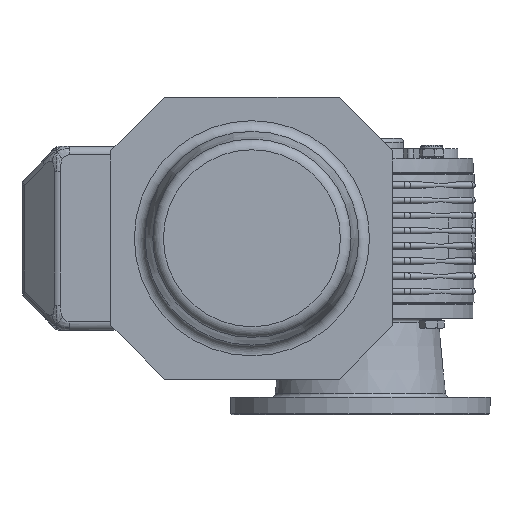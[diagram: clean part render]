
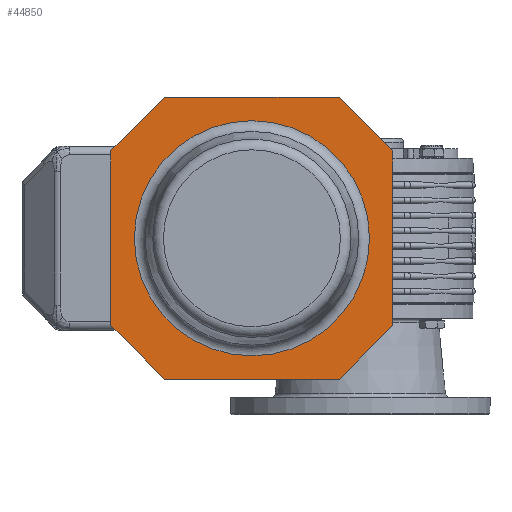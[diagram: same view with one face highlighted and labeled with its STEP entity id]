
A CAD part, left-side view. The second image highlights one B-rep face of the part: STEP entity #44850.
In plain terms, the highlighted planar face has unit normal (-1, 0, 0) as drawn and (1, 0, 0) by its records, which use the part's own axes.
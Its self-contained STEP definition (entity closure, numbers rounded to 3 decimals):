
#44744=CARTESIAN_POINT('',(209.0,0.,54.212));
#44745=VERTEX_POINT('',#44744);
#44746=CARTESIAN_POINT('',(209.0,0.0,0.0));
#44747=DIRECTION('',(1.0,0.0,0.0));
#44748=DIRECTION('',(0.0,0.0,-1.0));
#44749=AXIS2_PLACEMENT_3D('',#44746,#44747,#44748);
#44750=CIRCLE('',#44749,54.212);
#44751=EDGE_CURVE('',#44745,#44745,#44750,.T.);
#44776=CARTESIAN_POINT('',(209.0,28.6,0.0));
#44777=DIRECTION('',(1.0,0.0,0.0));
#44778=DIRECTION('',(0.0,0.0,-1.0));
#44779=AXIS2_PLACEMENT_3D('',#44776,#44777,#44778);
#44780=PLANE('',#44779);
#44781=CARTESIAN_POINT('',(209.0,-65.0,40.251));
#44782=VERTEX_POINT('',#44781);
#44783=CARTESIAN_POINT('',(209.0,-40.251,65.0));
#44784=VERTEX_POINT('',#44783);
#44785=CARTESIAN_POINT('',(209.0,-65.0,40.251));
#44786=DIRECTION('',(0.0,0.707,0.707));
#44787=VECTOR('',#44786,35.);
#44788=LINE('',#44785,#44787);
#44789=EDGE_CURVE('',#44782,#44784,#44788,.T.);
#44790=ORIENTED_EDGE('',*,*,#44789,.F.);
#44791=CARTESIAN_POINT('',(209.0,-65.0,-40.251));
#44792=VERTEX_POINT('',#44791);
#44793=CARTESIAN_POINT('',(209.0,-65.0,-40.251));
#44794=DIRECTION('',(0.0,0.0,1.0));
#44795=VECTOR('',#44794,80.503);
#44796=LINE('',#44793,#44795);
#44797=EDGE_CURVE('',#44792,#44782,#44796,.T.);
#44798=ORIENTED_EDGE('',*,*,#44797,.F.);
#44799=CARTESIAN_POINT('',(209.0,-40.251,-65.0));
#44800=VERTEX_POINT('',#44799);
#44801=CARTESIAN_POINT('',(209.0,-40.251,-65.0));
#44802=DIRECTION('',(0.0,-0.707,0.707));
#44803=VECTOR('',#44802,35.);
#44804=LINE('',#44801,#44803);
#44805=EDGE_CURVE('',#44800,#44792,#44804,.T.);
#44806=ORIENTED_EDGE('',*,*,#44805,.F.);
#44807=CARTESIAN_POINT('',(209.0,40.251,-65.0));
#44808=VERTEX_POINT('',#44807);
#44809=CARTESIAN_POINT('',(209.0,40.251,-65.0));
#44810=DIRECTION('',(0.0,-1.0,0.0));
#44811=VECTOR('',#44810,80.503);
#44812=LINE('',#44809,#44811);
#44813=EDGE_CURVE('',#44808,#44800,#44812,.T.);
#44814=ORIENTED_EDGE('',*,*,#44813,.F.);
#44815=CARTESIAN_POINT('',(209.0,65.0,-40.251));
#44816=VERTEX_POINT('',#44815);
#44817=CARTESIAN_POINT('',(209.0,65.0,-40.251));
#44818=DIRECTION('',(0.0,-0.707,-0.707));
#44819=VECTOR('',#44818,35.0);
#44820=LINE('',#44817,#44819);
#44821=EDGE_CURVE('',#44816,#44808,#44820,.T.);
#44822=ORIENTED_EDGE('',*,*,#44821,.F.);
#44823=CARTESIAN_POINT('',(209.0,65.0,40.251));
#44824=VERTEX_POINT('',#44823);
#44825=CARTESIAN_POINT('',(209.0,65.0,40.251));
#44826=DIRECTION('',(0.0,0.0,-1.0));
#44827=VECTOR('',#44826,80.503);
#44828=LINE('',#44825,#44827);
#44829=EDGE_CURVE('',#44824,#44816,#44828,.T.);
#44830=ORIENTED_EDGE('',*,*,#44829,.F.);
#44831=CARTESIAN_POINT('',(209.0,40.251,65.0));
#44832=VERTEX_POINT('',#44831);
#44833=CARTESIAN_POINT('',(209.0,40.251,65.0));
#44834=DIRECTION('',(0.0,0.707,-0.707));
#44835=VECTOR('',#44834,35.0);
#44836=LINE('',#44833,#44835);
#44837=EDGE_CURVE('',#44832,#44824,#44836,.T.);
#44838=ORIENTED_EDGE('',*,*,#44837,.F.);
#44839=CARTESIAN_POINT('',(209.0,-40.251,65.0));
#44840=DIRECTION('',(0.0,1.0,0.0));
#44841=VECTOR('',#44840,80.503);
#44842=LINE('',#44839,#44841);
#44843=EDGE_CURVE('',#44784,#44832,#44842,.T.);
#44844=ORIENTED_EDGE('',*,*,#44843,.F.);
#44845=EDGE_LOOP('',(#44790,#44798,#44806,#44814,#44822,#44830,#44838,#44844));
#44846=FACE_OUTER_BOUND('',#44845,.T.);
#44847=ORIENTED_EDGE('',*,*,#44751,.F.);
#44848=EDGE_LOOP('',(#44847));
#44849=FACE_BOUND('',#44848,.T.);
#44850=ADVANCED_FACE('',(#44846,#44849),#44780,.T.);
